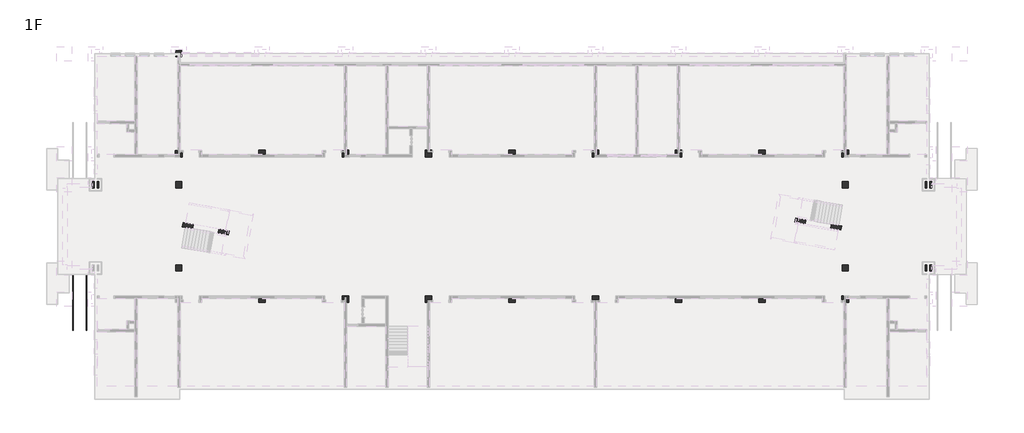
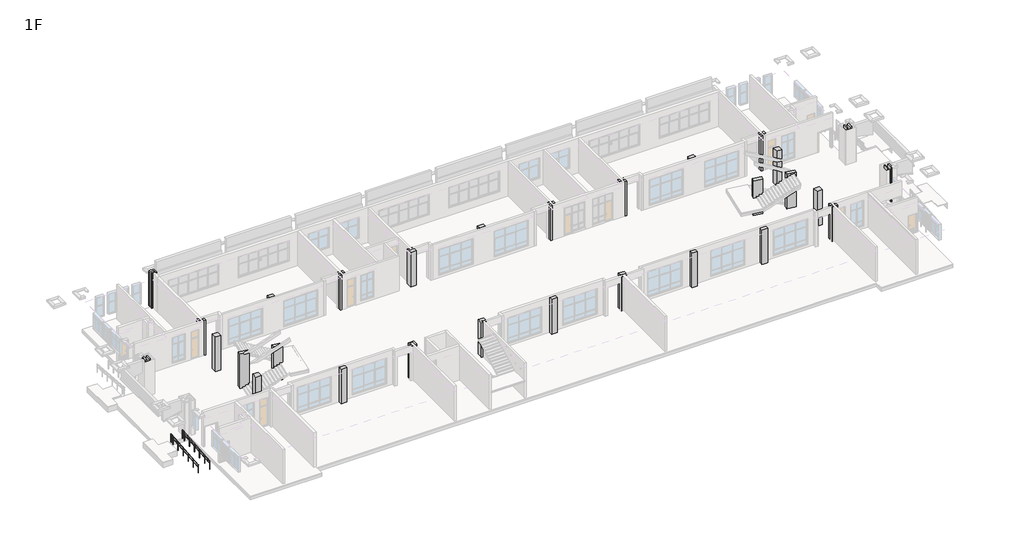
# One storey, part 8 of 16: 29 columns, 2 railings.
"""IFC4 building model written with IfcOpenShell, lengths in millimetres."""

from ifc_helpers import new_model, si_unit, frame, origin, origin_with_axes, place, context, project, spatial, polyline, ellipse_curve, outline, extrude, faceted_brep, transform, mapped, element, save
from ifc_brep_helpers import plane_surface, cylinder_surface, advanced_brep
from components import column_400_x_1000mm_b216b8c1, column_600_x_600mm_39ac082c, column_600_x_600mm_c863cf98

model = new_model("IFC4")

# Units and contexts
model_context = context("Model", 3, world=origin())
ifc_project = project(units=[si_unit("LENGTHUNIT", "METRE", prefix="MILLI")], contexts=[model_context])

# Site, building, storey
site = spatial("IfcSite", under=ifc_project)
building = spatial("IfcBuilding", under=site)
storey = spatial("IfcBuildingStorey", under=building, Name="1F", Elevation=0.0)

# Columns
placement = place(None, origin())
column_400_x_1000mm_shape = column_400_x_1000mm_b216b8c1(model_context)
element("IfcColumn", 1, ObjectType="矩形柱 : 400 x 1000mm", at=placement, inside=storey, context=model_context, shape_type="MappedRepresentation", body=[
    mapped(column_400_x_1000mm_shape, transform((11868.9667373, 16678.0533194, 0.0), x_axis=(0.9848077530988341, -0.1736481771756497, 0.0), y_axis=(0.1736481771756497, 0.9848077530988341, 0.0), z_axis=(0.0, 0.0, 1.0))),
])
element("IfcColumn", 2, ObjectType="矩形柱 : 400 x 1000mm", at=placement, inside=storey, context=model_context, shape_type="MappedRepresentation", body=[
    mapped(column_400_x_1000mm_shape, transform((15303.6601701, 16071.4403614, 0.0), x_axis=(0.9848077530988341, -0.1736481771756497, 0.0), y_axis=(0.1736481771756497, 0.9848077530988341, 0.0), z_axis=(0.0, 0.0, 1.0))),
])
element("IfcColumn", 3, ObjectType="矩形柱 : 400 x 1000mm", at=placement, inside=storey, context=model_context, shape_type="MappedRepresentation", body=[
    mapped(column_400_x_1000mm_shape, transform((70696.3343657, 17127.6942221, 0.0), x_axis=(0.9848077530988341, -0.1736481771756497, 0.0), y_axis=(0.1736481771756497, 0.9848077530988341, 0.0), z_axis=(0.0, 0.0, 1.0))),
])
element("IfcColumn", 4, ObjectType="矩形柱 : 400 x 1000mm", at=placement, inside=storey, context=model_context, shape_type="MappedRepresentation", body=[
    mapped(column_400_x_1000mm_shape, transform((74131.0357292, 16521.1261705, 0.0), x_axis=(0.9848077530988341, -0.1736481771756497, 0.0), y_axis=(0.1736481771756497, 0.9848077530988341, 0.0), z_axis=(0.0, 0.0, 1.0))),
])
element("IfcColumn", 5, ObjectType="矩形柱 : 600 x 600mm", at=placement, inside=storey, context=model_context, shape_type="Brep", body=[
    faceted_brep([(11300.0, 33500.0, 4200.0), (10700.0, 33500.0, 4200.0), (10700.0, 33252.6954639, 4200.0), (11153.0, 33252.6954639, 4200.0), (11153.0, 32982.6954639, 4200.0), (11153.0, 32900.0, 4200.0), (11300.0, 32900.0, 4200.0), (11300.0, 32929.640208, 4200.0), (11300.0, 33500.0, 0.0), (10700.0, 33500.0, 0.0), (10700.0, 33252.6954639, 0.0), (11300.0, 32900.0, 0.0), (11153.0, 33252.6954639, 0.0), (11153.0, 32982.6954639, 0.0), (11153.0, 32900.0, 0.0)], [[[0, 1, 2, 3, 4, 5, 6, 7]], [[1, 0, 8, 9]], [[1, 9, 10, 2]], [[0, 7, 6, 11, 8]], [[3, 2, 10, 12]], [[4, 3, 12, 13]], [[5, 4, 13, 14]], [[8, 11, 14, 13, 12, 10, 9]], [[11, 6, 5, 14]]]),
    faceted_brep([(10700.0, 32900.0, 0.0), (10700.0, 32982.6954639, 0.0), (10883.0, 32982.6954639, 0.0), (10883.0, 32900.0, 0.0), (10700.0, 32900.0, 4200.0), (10883.0, 32900.0, 4200.0), (10700.0, 32982.6954639, 4200.0), (10883.0, 32982.6954639, 4200.0)], [[[0, 1, 2, 3]], [[4, 0, 3, 5]], [[1, 6, 7, 2]], [[0, 4, 6, 1]], [[7, 5, 3, 2]], [[6, 4, 5, 7]]]),
])
element("IfcColumn", 6, ObjectType="矩形柱 : 600 x 600mm", at=placement, inside=storey, context=model_context, shape_type="SweptSolid", body=[
    extrude(outline(polyline([(83300.0, 20900.0), (83300.0, 20300.0), (83102.9999995, 20300.0), (83102.9999995, 20900.0), (83300.0, 20900.0)])), origin_with_axes(), (0.0, 0.0, 1.0), 4200.0),
    extrude(outline(polyline([(82700.0, 20300.0), (82700.0, 20900.0), (82832.9999995, 20900.0), (82832.9999995, 20300.0), (82700.0, 20300.0)])), origin_with_axes(), (0.0, 0.0, 1.0), 4200.0),
])
element("IfcColumn", 7, ObjectType="矩形柱 : 600 x 600mm", at=placement, inside=storey, context=model_context, shape_type="SweptSolid", body=[
    extrude(outline(polyline([(83300.0, 12900.0), (83300.0, 12300.0), (83102.9999995, 12300.0), (83102.9999995, 12900.0), (83300.0, 12900.0)])), origin_with_axes(), (0.0, 0.0, 1.0), 4200.0),
    extrude(outline(polyline([(82700.0, 12300.0), (82700.0, 12900.0), (82832.9999995, 12900.0), (82832.9999995, 12300.0), (82700.0, 12300.0)])), origin_with_axes(), (0.0, 0.0, 1.0), 4200.0),
])
element("IfcColumn", 8, ObjectType="矩形柱 : 600 x 600mm", at=placement, inside=storey, context=model_context, shape_type="SweptSolid", body=[
    extrude(outline(polyline([(3300.0, 20900.0), (3300.0, 20300.0), (3167.0000002, 20300.0), (3167.0000002, 20900.0), (3300.0, 20900.0)])), origin_with_axes(), (0.0, 0.0, 1.0), 4200.0),
    extrude(outline(polyline([(2700.0, 20300.0), (2700.0, 20900.0), (2897.0000002, 20900.0), (2897.0000002, 20300.0), (2700.0, 20300.0)])), origin_with_axes(), (0.0, 0.0, 1.0), 4200.0),
])
column_600_x_600mm_shape = column_600_x_600mm_39ac082c(model_context)
element("IfcColumn", 9, ObjectType="矩形柱 : 600 x 600mm", at=placement, inside=storey, context=model_context, shape_type="MappedRepresentation", body=[
    mapped(column_600_x_600mm_shape, transform((11000.0, 20600.0, 0.0), x_axis=(1.0, 0.0, 0.0), y_axis=(0.0, 1.0, 0.0), z_axis=(0.0, 0.0, 1.0))),
])
element("IfcColumn", 10, ObjectType="矩形柱 : 600 x 600mm", at=placement, inside=storey, context=model_context, shape_type="MappedRepresentation", body=[
    mapped(column_600_x_600mm_shape, transform((75000.0, 20600.0, 0.0), x_axis=(1.0, 0.0, 0.0), y_axis=(0.0, 1.0, 0.0), z_axis=(0.0, 0.0, 1.0))),
])
column_600_x_600mm_2_shape = column_600_x_600mm_c863cf98(model_context)
element("IfcColumn", 11, ObjectType="矩形柱 : 600 x 600mm", at=placement, inside=storey, context=model_context, shape_type="MappedRepresentation", body=[
    mapped(column_600_x_600mm_2_shape, transform((11000.0, 12600.0, 0.0), x_axis=(1.0, 0.0, 0.0), y_axis=(0.0, 1.0, 0.0), z_axis=(0.0, 0.0, 1.0))),
])
element("IfcColumn", 12, ObjectType="矩形柱 : 600 x 600mm", at=placement, inside=storey, context=model_context, shape_type="MappedRepresentation", body=[
    mapped(column_600_x_600mm_2_shape, transform((75000.0, 12600.0, 0.0), x_axis=(1.0, 0.0, 0.0), y_axis=(0.0, 1.0, 0.0), z_axis=(0.0, 0.0, 1.0))),
])
element("IfcColumn", 13, ObjectType="矩形柱 : 634 x 634mm", at=placement, inside=storey, context=model_context, shape_type="SweptSolid", body=[
    extrude(outline(polyline([(75117.0, 23917.0), (75317.0, 23917.0), (75317.0, 23516.2230996), (75117.0, 23516.2230996), (75117.0, 23917.0)])), origin_with_axes(), (0.0, 0.0, 1.0), 4200.0),
    extrude(outline(polyline([(74683.0, 23917.0), (74883.0, 23917.0), (74883.0, 23916.7231011), (74683.0, 23916.7231011), (74683.0, 23917.0)])), origin_with_axes(), (0.0, 0.0, 1.0), 4200.0),
    extrude(outline(polyline([(74883.0, 23283.0), (74683.0, 23283.0), (74683.0, 23682.7231011), (74883.0, 23682.7231011), (74883.0, 23283.0)])), origin_with_axes(), (0.0, 0.0, 1.0), 4200.0),
])
element("IfcColumn", 14, ObjectType="矩形柱 : 634 x 634mm", at=placement, inside=storey, context=model_context, shape_type="SweptSolid", body=[
    extrude(outline(polyline([(66683.0, 23917.0), (67317.0, 23917.0), (67317.0, 23516.6954638), (66683.0, 23516.6954638), (66683.0, 23917.0)])), origin_with_axes(), (0.0, 0.0, 1.0), 4200.0),
])
element("IfcColumn", 15, ObjectType="矩形柱 : 634 x 634mm", at=placement, inside=storey, context=model_context, shape_type="SweptSolid", body=[
    extrude(outline(polyline([(59117.0, 23917.0), (59317.0, 23917.0), (59317.0, 23916.7231012), (59117.0, 23916.7231012), (59117.0, 23917.0)])), origin_with_axes(), (0.0, 0.0, 1.0), 4200.0),
    extrude(outline(polyline([(58683.0, 23917.0), (58883.0, 23917.0), (58883.0, 23516.6954639), (58683.0, 23516.6954639), (58683.0, 23917.0)])), origin_with_axes(), (0.0, 0.0, 1.0), 4200.0),
    extrude(outline(polyline([(59317.0, 23682.7231012), (59317.0, 23283.0), (59117.0, 23283.0), (59117.0, 23516.6954639), (59117.0, 23682.7231012), (59317.0, 23682.7231012)])), origin_with_axes(), (0.0, 0.0, 1.0), 4200.0),
])
element("IfcColumn", 16, ObjectType="矩形柱 : 634 x 634mm", at=placement, inside=storey, context=model_context, shape_type="SweptSolid", body=[
    extrude(outline(polyline([(51117.0, 23917.0), (51317.0, 23917.0), (51317.0, 23516.6954639), (51117.0, 23516.6954639), (51117.0, 23917.0)])), origin_with_axes(), (0.0, 0.0, 1.0), 4200.0),
    extrude(outline(polyline([(50683.0, 23917.0), (50883.0, 23917.0), (50883.0, 23916.7231007), (50683.0, 23916.7231007), (50683.0, 23917.0)])), origin_with_axes(), (0.0, 0.0, 1.0), 4200.0),
    extrude(outline(polyline([(50883.0, 23283.0), (50683.0, 23283.0), (50683.0, 23682.7231007), (50883.0, 23682.7231007), (50883.0, 23516.6954639), (50883.0, 23283.0)])), origin_with_axes(), (0.0, 0.0, 1.0), 4200.0),
])
element("IfcColumn", 17, ObjectType="矩形柱 : 634 x 634mm", at=placement, inside=storey, context=model_context, shape_type="SweptSolid", body=[
    extrude(outline(polyline([(42683.0, 23917.0), (43317.0, 23917.0), (43317.0, 23516.695464), (42683.0, 23516.695464), (42683.0, 23917.0)])), origin_with_axes(), (0.0, 0.0, 1.0), 4200.0),
])
element("IfcColumn", 18, ObjectType="矩形柱 : 634 x 634mm", at=placement, inside=storey, context=model_context, shape_type="SweptSolid", body=[
    extrude(outline(polyline([(35117.0, 23917.0), (35317.0, 23917.0), (35317.0, 23916.7231012), (35117.0, 23916.7231012), (35117.0, 23917.0)])), origin_with_axes(), (0.0, 0.0, 1.0), 4200.0),
    extrude(outline(polyline([(35317.0, 23283.0), (34683.0, 23283.0), (34683.0, 23917.0), (34883.0, 23917.0), (34883.0, 23682.7231012), (35117.0, 23682.7231012), (35317.0, 23682.7231012), (35317.0, 23283.0)])), origin_with_axes(), (0.0, 0.0, 1.0), 4200.0),
])
element("IfcColumn", 19, ObjectType="矩形柱 : 634 x 634mm", at=placement, inside=storey, context=model_context, shape_type="SweptSolid", body=[
    extrude(outline(polyline([(27117.0, 23917.0), (27317.0, 23917.0), (27317.0, 23516.6954638), (27117.0, 23516.6954638), (27117.0, 23917.0)])), origin_with_axes(), (0.0, 0.0, 1.0), 4200.0),
    extrude(outline(polyline([(26683.0, 23917.0), (26883.0, 23917.0), (26883.0, 23916.7231007), (26683.0, 23916.7231007), (26683.0, 23917.0)])), origin_with_axes(), (0.0, 0.0, 1.0), 4200.0),
    extrude(outline(polyline([(26883.0, 23283.0), (26683.0, 23283.0), (26683.0, 23682.7231007), (26883.0, 23682.7231007), (26883.0, 23516.6954638), (26883.0, 23283.0)])), origin_with_axes(), (0.0, 0.0, 1.0), 4200.0),
])
element("IfcColumn", 20, ObjectType="矩形柱 : 634 x 634mm", at=placement, inside=storey, context=model_context, shape_type="SweptSolid", body=[
    extrude(outline(polyline([(18683.0, 23917.0), (19317.0, 23917.0), (19317.0, 23516.6954641), (18683.0, 23516.6954641), (18683.0, 23917.0)])), origin_with_axes(), (0.0, 0.0, 1.0), 4200.0),
])
element("IfcColumn", 21, ObjectType="矩形柱 : 634 x 634mm", at=placement, inside=storey, context=model_context, shape_type="SweptSolid", body=[
    extrude(outline(polyline([(11317.0, 23682.7231012), (11317.0, 23282.723093), (11117.0, 23282.723093), (11117.0, 23516.723093), (11117.0, 23682.7231012), (11317.0, 23682.7231012)])), origin_with_axes(), (0.0, 0.0, 1.0), 4200.0),
    extrude(outline(polyline([(10683.0, 23916.723093), (10883.0, 23916.723093), (10883.0, 23516.723093), (10683.0, 23516.723093), (10683.0, 23916.723093)])), origin_with_axes(), (0.0, 0.0, 1.0), 4200.0),
])
element("IfcColumn", 22, ObjectType="矩形柱 : 634 x 634mm", at=placement, inside=storey, context=model_context, shape_type="SweptSolid", body=[
    extrude(outline(polyline([(75317.0, 9283.0), (75117.0, 9283.0), (75117.0, 9683.7769004), (75317.0, 9683.7769004), (75317.0, 9283.0)])), origin_with_axes(), (0.0, 0.0, 1.0), 4200.0),
    extrude(outline(polyline([(74683.0, 9917.0), (74883.0, 9917.0), (74883.0, 9517.2768989), (74683.0, 9517.2768989), (74683.0, 9917.0)])), origin_with_axes(), (0.0, 0.0, 1.0), 4200.0),
    extrude(outline(polyline([(74883.0, 9283.0), (74683.0, 9283.0), (74683.0, 9283.2768989), (74883.0, 9283.2768989), (74883.0, 9283.0)])), origin_with_axes(), (0.0, 0.0, 1.0), 4200.0),
])
element("IfcColumn", 23, ObjectType="矩形柱 : 634 x 634mm", at=placement, inside=storey, context=model_context, shape_type="SweptSolid", body=[
    extrude(outline(polyline([(67317.0, 9283.0), (66683.0, 9283.0), (66683.0, 9683.3045361), (67317.0, 9683.3045361), (67317.0, 9283.0)])), origin_with_axes(), (0.0, 0.0, 1.0), 4200.0),
])
element("IfcColumn", 24, ObjectType="矩形柱 : 634 x 634mm", at=placement, inside=storey, context=model_context, shape_type="SweptSolid", body=[
    extrude(outline(polyline([(59317.0, 9283.0), (58683.0, 9283.0), (58683.0, 9683.3045361), (59317.0, 9683.3045361), (59317.0, 9283.0)])), origin_with_axes(), (0.0, 0.0, 1.0), 4200.0),
])
element("IfcColumn", 25, ObjectType="矩形柱 : 634 x 634mm", at=placement, inside=storey, context=model_context, shape_type="SweptSolid", body=[
    extrude(outline(polyline([(50683.0, 9917.0), (51317.0, 9917.0), (51317.0, 9517.2768993), (51117.0, 9517.2768993), (50883.0, 9517.2768993), (50683.0, 9517.2768993), (50683.0, 9917.0)])), origin_with_axes(), (0.0, 0.0, 1.0), 4200.0),
    extrude(outline(polyline([(50883.0, 9283.0), (50683.0, 9283.0), (50683.0, 9283.2768993), (50883.0, 9283.2768993), (50883.0, 9283.0)])), origin_with_axes(), (0.0, 0.0, 1.0), 4200.0),
    extrude(outline(polyline([(51317.0, 9283.0), (51117.0, 9283.0), (51117.0, 9283.2768993), (51317.0, 9283.2768993), (51317.0, 9283.0)])), origin_with_axes(), (0.0, 0.0, 1.0), 4200.0),
])
element("IfcColumn", 26, ObjectType="矩形柱 : 634 x 634mm", at=placement, inside=storey, context=model_context, shape_type="SweptSolid", body=[
    extrude(outline(polyline([(43317.0, 9283.0), (42683.0, 9283.0), (42683.0, 9683.304536), (43317.0, 9683.304536), (43317.0, 9283.0)])), origin_with_axes(), (0.0, 0.0, 1.0), 4200.0),
])
element("IfcColumn", 27, ObjectType="矩形柱 : 634 x 634mm", at=placement, inside=storey, context=model_context, shape_type="SweptSolid", body=[
    extrude(outline(polyline([(35317.0, 9283.0), (35117.0, 9283.0), (35117.0, 9283.2768988), (35317.0, 9283.2768988), (35317.0, 9283.0)])), origin_with_axes(), (0.0, 0.0, 1.0), 4200.0),
    extrude(outline(polyline([(34683.0, 9917.0), (35317.0, 9917.0), (35317.0, 9517.2768988), (35117.0, 9517.2768988), (34883.0, 9517.2768988), (34883.0, 9283.0), (34683.0, 9283.0), (34683.0, 9917.0)])), origin_with_axes(), (0.0, 0.0, 1.0), 4200.0),
])
element("IfcColumn", 28, ObjectType="矩形柱 : 634 x 634mm", at=placement, inside=storey, context=model_context, shape_type="SweptSolid", body=[
    extrude(outline(polyline([(27317.0, 9917.0), (27317.0, 9283.0), (27117.0, 9283.0), (27117.0, 9800.3045362), (26883.0, 9800.3045362), (26883.0, 9517.2768993), (26683.0, 9517.2768993), (26683.0, 9917.0), (27317.0, 9917.0)])), origin_with_axes(), (0.0, 0.0, 1.0), 4200.0),
    extrude(outline(polyline([(26883.0, 9283.0), (26683.0, 9283.0), (26683.0, 9283.2768993), (26883.0, 9283.2768993), (26883.0, 9283.0)])), origin_with_axes(), (0.0, 0.0, 1.0), 4200.0),
])
element("IfcColumn", 29, ObjectType="矩形柱 : 634 x 634mm", at=placement, inside=storey, context=model_context, shape_type="SweptSolid", body=[
    extrude(outline(polyline([(19317.0, 9283.0), (18683.0, 9283.0), (18683.0, 9683.3045359), (19317.0, 9683.3045359), (19317.0, 9283.0)])), origin_with_axes(), (0.0, 0.0, 1.0), 4200.0),
])

# Railings
element("IfcRailing", 30, ObjectType="教学楼 – 无障碍坡道扶手 – 1000mm", at=placement, inside=storey, context=model_context, shape_type="AdvancedBrep", body=[
    advanced_brep(
    [(870.0, 6600.0, 529.9306757), (830.0, 6600.0, 529.9306757), (870.0, 12000.0, 979.9306757), (830.0, 12000.0, 979.9306757)],
    [
        (0, 1, ellipse_curve(frame((850.0, 6600.0, 529.9306757), z_axis=(0.0, -1.0, 0.0), x_axis=(0.0, 0.0, -1.0)), 20.0693243, 20.0)),
        (1, 0, ellipse_curve(frame((850.0, 6600.0, 529.9306757), z_axis=(0.0, -1.0, 0.0), x_axis=(0.0, 0.0, -1.0)), 20.0693243, 20.0)),
        (2, 3, ellipse_curve(frame((850.0, 12000.0, 979.9306757), z_axis=(0.0, 1.0, 0.0), x_axis=(0.0, 0.0, -1.0)), 20.0693243, 20.0)),
        (3, 2, ellipse_curve(frame((850.0, 12000.0, 979.9306757), z_axis=(0.0, 1.0, 0.0), x_axis=(0.0, 0.0, -1.0)), 20.0693243, 20.0)),
        (0, 2),
        (3, 1),
    ],
    [
        plane_surface(frame((850.0, 6600.0, 550.0), z_axis=(0.0, -1.0, 0.0), x_axis=(0.0, 0.0, 1.0))),
        plane_surface(frame((850.0, 12000.0, 1000.0), z_axis=(0.0, 1.0, 0.0), x_axis=(0.0, 0.0, 1.0))),
        cylinder_surface(frame((850.0, 6601.6609096, 530.0690848), z_axis=(0.0, -0.9965457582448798, -0.08304547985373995), x_axis=(-1.0, 0.0, 0.0)), 20.0),
    ],
    [
        (0, [[1, 2]]),
        (1, [[3, 4]]),
        (2, [[-1, 5, -4, 6]]),
        (2, [[-2, -6, -3, -5]]),
    ],
),
    advanced_brep(
    [(865.0, 6600.0, 234.9480068), (835.0, 6600.0, 234.9480068), (865.0, 12000.0, 684.9480068), (835.0, 12000.0, 684.9480068)],
    [
        (0, 1, ellipse_curve(frame((850.0, 6600.0, 234.9480068), z_axis=(0.0, -1.0, 0.0), x_axis=(0.0, 0.0, -1.0)), 15.0519932, 15.0)),
        (1, 0, ellipse_curve(frame((850.0, 6600.0, 234.9480068), z_axis=(0.0, -1.0, 0.0), x_axis=(0.0, 0.0, -1.0)), 15.0519932, 15.0)),
        (2, 3, ellipse_curve(frame((850.0, 12000.0, 684.9480068), z_axis=(0.0, 1.0, 0.0), x_axis=(0.0, 0.0, -1.0)), 15.0519932, 15.0)),
        (3, 2, ellipse_curve(frame((850.0, 12000.0, 684.9480068), z_axis=(0.0, 1.0, 0.0), x_axis=(0.0, 0.0, -1.0)), 15.0519932, 15.0)),
        (1, 3),
        (2, 0),
    ],
    [
        plane_surface(frame((850.0, 6600.0, 250.0), z_axis=(0.0, -1.0, 0.0), x_axis=(0.0, 0.0, 1.0))),
        plane_surface(frame((850.0, 12000.0, 700.0), z_axis=(0.0, 1.0, 0.0), x_axis=(0.0, 0.0, 1.0))),
        cylinder_surface(frame((850.0, 6601.2456822, 235.0518136), z_axis=(0.0, -0.9965457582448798, -0.08304547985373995), x_axis=(-1.0, 0.0, 0.0)), 15.0),
    ],
    [
        (0, [[1, 2]]),
        (1, [[3, 4]]),
        (2, [[-2, 5, -3, 6]]),
        (2, [[-1, -6, -4, -5]]),
    ],
),
    advanced_brep(
    [(837.5, 11600.0, 926.5280181), (862.5, 11600.0, 926.5280181), (862.5, 11600.0, -33.3333333), (837.5, 11600.0, -33.3333333)],
    [
        (0, 1, ellipse_curve(frame((850.0, 11600.0, 926.5280181), z_axis=(0.0, 0.08304547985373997, -0.9965457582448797), x_axis=(0.0, 0.9965457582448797, 0.0830454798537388)), 12.5433277, 12.5)),
        (1, 2),
        (2, 3, ellipse_curve(frame((850.0, 11600.0, -33.3333333), z_axis=(0.0, -0.08304547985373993, 0.9965457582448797), x_axis=(0.0, 0.9965457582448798, 0.08304547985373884)), 12.5433277, 12.5)),
        (3, 0),
        (3, 2, ellipse_curve(frame((850.0, 11600.0, -33.3333333), z_axis=(0.0, -0.08304547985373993, 0.9965457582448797), x_axis=(0.0, 0.9965457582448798, 0.08304547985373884)), 12.5433277, 12.5)),
        (1, 0, ellipse_curve(frame((850.0, 11600.0, 926.5280181), z_axis=(0.0, 0.08304547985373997, -0.9965457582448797), x_axis=(0.0, 0.9965457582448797, 0.0830454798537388)), 12.5433277, 12.5)),
    ],
    [
        cylinder_surface(frame((850.0, 11600.0, -133.3333333), z_axis=(0.0, 0.0, 1.0), x_axis=(1.0, 0.0, 0.0)), 12.5),
        plane_surface(frame((875.0, 11625.0, 928.6113514), z_axis=(0.0, -0.08304547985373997, 0.9965457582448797), x_axis=(-1.0, 0.0, 0.0))),
        plane_surface(frame((875.0, 11575.0, -35.4166667), z_axis=(0.0, 0.08304547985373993, -0.9965457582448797), x_axis=(-1.0, 0.0, 0.0))),
    ],
    [
        (0, [[1, 2, 3, 4]]),
        (0, [[5, -2, 6, -4]]),
        (1, [[-6, -1]]),
        (2, [[-5, -3]]),
    ],
),
    advanced_brep(
    [(837.5, 10600.0, 843.1946847), (862.5, 10600.0, 843.1946847), (862.5, 10600.0, -116.6666667), (837.5, 10600.0, -116.6666667)],
    [
        (0, 1, ellipse_curve(frame((850.0, 10600.0, 843.1946847), z_axis=(0.0, 0.08304547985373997, -0.9965457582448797), x_axis=(0.0, 0.9965457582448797, 0.0830454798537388)), 12.5433277, 12.5)),
        (1, 2),
        (2, 3, ellipse_curve(frame((850.0, 10600.0, -116.6666667), z_axis=(0.0, -0.08304547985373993, 0.9965457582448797), x_axis=(0.0, 0.9965457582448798, 0.08304547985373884)), 12.5433277, 12.5)),
        (3, 0),
        (3, 2, ellipse_curve(frame((850.0, 10600.0, -116.6666667), z_axis=(0.0, -0.08304547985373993, 0.9965457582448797), x_axis=(0.0, 0.9965457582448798, 0.08304547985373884)), 12.5433277, 12.5)),
        (1, 0, ellipse_curve(frame((850.0, 10600.0, 843.1946847), z_axis=(0.0, 0.08304547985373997, -0.9965457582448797), x_axis=(0.0, 0.9965457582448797, 0.0830454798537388)), 12.5433277, 12.5)),
    ],
    [
        cylinder_surface(frame((850.0, 10600.0, -216.6666667), z_axis=(0.0, 0.0, 1.0), x_axis=(1.0, 0.0, 0.0)), 12.5),
        plane_surface(frame((875.0, 10625.0, 845.2780181), z_axis=(0.0, -0.08304547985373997, 0.9965457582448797), x_axis=(-1.0, 0.0, 0.0))),
        plane_surface(frame((875.0, 10575.0, -118.75), z_axis=(0.0, 0.08304547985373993, -0.9965457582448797), x_axis=(-1.0, 0.0, 0.0))),
    ],
    [
        (0, [[1, 2, 3, 4]]),
        (0, [[5, -2, 6, -4]]),
        (1, [[-6, -1]]),
        (2, [[-5, -3]]),
    ],
),
    advanced_brep(
    [(837.5, 9600.0, 759.8613514), (862.5, 9600.0, 759.8613514), (862.5, 9600.0, -200.0), (837.5, 9600.0, -200.0)],
    [
        (0, 1, ellipse_curve(frame((850.0, 9600.0, 759.8613514), z_axis=(0.0, 0.08304547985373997, -0.9965457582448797), x_axis=(0.0, 0.9965457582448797, 0.0830454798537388)), 12.5433277, 12.5)),
        (1, 2),
        (2, 3, ellipse_curve(frame((850.0, 9600.0, -200.0), z_axis=(0.0, -0.08304547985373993, 0.9965457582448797), x_axis=(0.0, 0.9965457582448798, 0.08304547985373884)), 12.5433277, 12.5)),
        (3, 0),
        (3, 2, ellipse_curve(frame((850.0, 9600.0, -200.0), z_axis=(0.0, -0.08304547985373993, 0.9965457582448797), x_axis=(0.0, 0.9965457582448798, 0.08304547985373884)), 12.5433277, 12.5)),
        (1, 0, ellipse_curve(frame((850.0, 9600.0, 759.8613514), z_axis=(0.0, 0.08304547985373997, -0.9965457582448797), x_axis=(0.0, 0.9965457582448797, 0.0830454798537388)), 12.5433277, 12.5)),
    ],
    [
        cylinder_surface(frame((850.0, 9600.0, -300.0), z_axis=(0.0, 0.0, 1.0), x_axis=(1.0, 0.0, 0.0)), 12.5),
        plane_surface(frame((875.0, 9625.0, 761.9446847), z_axis=(0.0, -0.08304547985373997, 0.9965457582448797), x_axis=(-1.0, 0.0, 0.0))),
        plane_surface(frame((875.0, 9575.0, -202.0833333), z_axis=(0.0, 0.08304547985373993, -0.9965457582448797), x_axis=(-1.0, 0.0, 0.0))),
    ],
    [
        (0, [[1, 2, 3, 4]]),
        (0, [[5, -2, 6, -4]]),
        (1, [[-6, -1]]),
        (2, [[-5, -3]]),
    ],
),
    advanced_brep(
    [(837.5, 8600.0, 676.5280181), (862.5, 8600.0, 676.5280181), (862.5, 8600.0, -283.3333333), (837.5, 8600.0, -283.3333333)],
    [
        (0, 1, ellipse_curve(frame((850.0, 8600.0, 676.5280181), z_axis=(0.0, 0.08304547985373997, -0.9965457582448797), x_axis=(0.0, 0.9965457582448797, 0.0830454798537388)), 12.5433277, 12.5)),
        (1, 2),
        (2, 3, ellipse_curve(frame((850.0, 8600.0, -283.3333333), z_axis=(0.0, -0.08304547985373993, 0.9965457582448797), x_axis=(0.0, 0.9965457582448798, 0.08304547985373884)), 12.5433277, 12.5)),
        (3, 0),
        (3, 2, ellipse_curve(frame((850.0, 8600.0, -283.3333333), z_axis=(0.0, -0.08304547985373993, 0.9965457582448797), x_axis=(0.0, 0.9965457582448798, 0.08304547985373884)), 12.5433277, 12.5)),
        (1, 0, ellipse_curve(frame((850.0, 8600.0, 676.5280181), z_axis=(0.0, 0.08304547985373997, -0.9965457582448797), x_axis=(0.0, 0.9965457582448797, 0.0830454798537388)), 12.5433277, 12.5)),
    ],
    [
        cylinder_surface(frame((850.0, 8600.0, -383.3333333), z_axis=(0.0, 0.0, 1.0), x_axis=(1.0, 0.0, 0.0)), 12.5),
        plane_surface(frame((875.0, 8625.0, 678.6113514), z_axis=(0.0, -0.08304547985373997, 0.9965457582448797), x_axis=(-1.0, 0.0, 0.0))),
        plane_surface(frame((875.0, 8575.0, -285.4166667), z_axis=(0.0, 0.08304547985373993, -0.9965457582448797), x_axis=(-1.0, 0.0, 0.0))),
    ],
    [
        (0, [[1, 2, 3, 4]]),
        (0, [[5, -2, 6, -4]]),
        (1, [[-6, -1]]),
        (2, [[-5, -3]]),
    ],
),
    advanced_brep(
    [(837.5, 7600.0, 593.1946847), (862.5, 7600.0, 593.1946847), (862.5, 7600.0, -366.6666667), (837.5, 7600.0, -366.6666667)],
    [
        (0, 1, ellipse_curve(frame((850.0, 7600.0, 593.1946847), z_axis=(0.0, 0.08304547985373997, -0.9965457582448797), x_axis=(0.0, 0.9965457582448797, 0.0830454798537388)), 12.5433277, 12.5)),
        (1, 2),
        (2, 3, ellipse_curve(frame((850.0, 7600.0, -366.6666667), z_axis=(0.0, -0.08304547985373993, 0.9965457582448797), x_axis=(0.0, 0.9965457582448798, 0.08304547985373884)), 12.5433277, 12.5)),
        (3, 0),
        (3, 2, ellipse_curve(frame((850.0, 7600.0, -366.6666667), z_axis=(0.0, -0.08304547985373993, 0.9965457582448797), x_axis=(0.0, 0.9965457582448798, 0.08304547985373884)), 12.5433277, 12.5)),
        (1, 0, ellipse_curve(frame((850.0, 7600.0, 593.1946847), z_axis=(0.0, 0.08304547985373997, -0.9965457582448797), x_axis=(0.0, 0.9965457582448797, 0.0830454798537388)), 12.5433277, 12.5)),
    ],
    [
        cylinder_surface(frame((850.0, 7600.0, -466.6666667), z_axis=(0.0, 0.0, 1.0), x_axis=(1.0, 0.0, 0.0)), 12.5),
        plane_surface(frame((875.0, 7625.0, 595.2780181), z_axis=(0.0, -0.08304547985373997, 0.9965457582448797), x_axis=(-1.0, 0.0, 0.0))),
        plane_surface(frame((875.0, 7575.0, -368.75), z_axis=(0.0, 0.08304547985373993, -0.9965457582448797), x_axis=(-1.0, 0.0, 0.0))),
    ],
    [
        (0, [[1, 2, 3, 4]]),
        (0, [[5, -2, 6, -4]]),
        (1, [[-6, -1]]),
        (2, [[-5, -3]]),
    ],
),
    advanced_brep(
    [(837.5, 11987.5, 958.8196847), (862.5, 11987.5, 958.8196847), (862.5, 11987.5, -1.0416667), (837.5, 11987.5, -1.0416667)],
    [
        (0, 1, ellipse_curve(frame((850.0, 11987.5, 958.8196847), z_axis=(0.0, 0.08304547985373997, -0.9965457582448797), x_axis=(0.0, 0.9965457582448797, 0.0830454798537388)), 12.5433277, 12.5)),
        (1, 2),
        (2, 3, ellipse_curve(frame((850.0, 11987.5, -1.0416667), z_axis=(0.0, -0.08304547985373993, 0.9965457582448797), x_axis=(0.0, 0.9965457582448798, 0.08304547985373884)), 12.5433277, 12.5)),
        (3, 0),
        (3, 2, ellipse_curve(frame((850.0, 11987.5, -1.0416667), z_axis=(0.0, -0.08304547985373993, 0.9965457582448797), x_axis=(0.0, 0.9965457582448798, 0.08304547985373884)), 12.5433277, 12.5)),
        (1, 0, ellipse_curve(frame((850.0, 11987.5, 958.8196847), z_axis=(0.0, 0.08304547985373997, -0.9965457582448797), x_axis=(0.0, 0.9965457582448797, 0.0830454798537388)), 12.5433277, 12.5)),
    ],
    [
        cylinder_surface(frame((850.0, 11987.5, -101.0416667), z_axis=(0.0, 0.0, 1.0), x_axis=(1.0, 0.0, 0.0)), 12.5),
        plane_surface(frame((875.0, 12012.5, 960.9030181), z_axis=(0.0, -0.08304547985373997, 0.9965457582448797), x_axis=(-1.0, 0.0, 0.0))),
        plane_surface(frame((875.0, 11962.5, -3.125), z_axis=(0.0, 0.08304547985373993, -0.9965457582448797), x_axis=(-1.0, 0.0, 0.0))),
    ],
    [
        (0, [[1, 2, 3, 4]]),
        (0, [[5, -2, 6, -4]]),
        (1, [[-6, -1]]),
        (2, [[-5, -3]]),
    ],
),
    advanced_brep(
    [(837.5, 6612.5, 510.9030181), (862.5, 6612.5, 510.9030181), (862.5, 6612.5, -448.9583333), (837.5, 6612.5, -448.9583333)],
    [
        (0, 1, ellipse_curve(frame((850.0, 6612.5, 510.9030181), z_axis=(0.0, 0.08304547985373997, -0.9965457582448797), x_axis=(0.0, 0.9965457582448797, 0.0830454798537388)), 12.5433277, 12.5)),
        (1, 2),
        (2, 3, ellipse_curve(frame((850.0, 6612.5, -448.9583333), z_axis=(0.0, -0.08304547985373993, 0.9965457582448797), x_axis=(0.0, 0.9965457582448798, 0.08304547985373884)), 12.5433277, 12.5)),
        (3, 0),
        (3, 2, ellipse_curve(frame((850.0, 6612.5, -448.9583333), z_axis=(0.0, -0.08304547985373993, 0.9965457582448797), x_axis=(0.0, 0.9965457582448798, 0.08304547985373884)), 12.5433277, 12.5)),
        (1, 0, ellipse_curve(frame((850.0, 6612.5, 510.9030181), z_axis=(0.0, 0.08304547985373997, -0.9965457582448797), x_axis=(0.0, 0.9965457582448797, 0.0830454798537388)), 12.5433277, 12.5)),
    ],
    [
        cylinder_surface(frame((850.0, 6612.5, -548.9583333), z_axis=(0.0, 0.0, 1.0), x_axis=(1.0, 0.0, 0.0)), 12.5),
        plane_surface(frame((875.0, 6637.5, 512.9863514), z_axis=(0.0, -0.08304547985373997, 0.9965457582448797), x_axis=(-1.0, 0.0, 0.0))),
        plane_surface(frame((875.0, 6587.5, -451.0416667), z_axis=(0.0, 0.08304547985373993, -0.9965457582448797), x_axis=(-1.0, 0.0, 0.0))),
    ],
    [
        (0, [[1, 2, 3, 4]]),
        (0, [[5, -2, 6, -4]]),
        (1, [[-6, -1]]),
        (2, [[-5, -3]]),
    ],
),
])
element("IfcRailing", 31, ObjectType="教学楼 – 无障碍坡道扶手 – 1000mm", at=placement, inside=storey, context=model_context, shape_type="AdvancedBrep", body=[
    advanced_brep(
    [(2170.0, 6600.0, 529.9306757), (2130.0, 6600.0, 529.9306757), (2170.0, 12000.0, 979.9306757), (2130.0, 12000.0, 979.9306757)],
    [
        (0, 1, ellipse_curve(frame((2150.0, 6600.0, 529.9306757), z_axis=(0.0, -1.0, 0.0), x_axis=(0.0, 0.0, -1.0)), 20.0693243, 20.0)),
        (1, 0, ellipse_curve(frame((2150.0, 6600.0, 529.9306757), z_axis=(0.0, -1.0, 0.0), x_axis=(0.0, 0.0, -1.0)), 20.0693243, 20.0)),
        (2, 3, ellipse_curve(frame((2150.0, 12000.0, 979.9306757), z_axis=(0.0, 1.0, 0.0), x_axis=(0.0, 0.0, -1.0)), 20.0693243, 20.0)),
        (3, 2, ellipse_curve(frame((2150.0, 12000.0, 979.9306757), z_axis=(0.0, 1.0, 0.0), x_axis=(0.0, 0.0, -1.0)), 20.0693243, 20.0)),
        (0, 2),
        (3, 1),
    ],
    [
        plane_surface(frame((2150.0, 6600.0, 550.0), z_axis=(0.0, -1.0, 0.0), x_axis=(0.0, 0.0, 1.0))),
        plane_surface(frame((2150.0, 12000.0, 1000.0), z_axis=(0.0, 1.0, 0.0), x_axis=(0.0, 0.0, 1.0))),
        cylinder_surface(frame((2150.0, 6601.6609096, 530.0690848), z_axis=(0.0, -0.9965457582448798, -0.08304547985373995), x_axis=(-1.0, 0.0, 0.0)), 20.0),
    ],
    [
        (0, [[1, 2]]),
        (1, [[3, 4]]),
        (2, [[-1, 5, -4, 6]]),
        (2, [[-2, -6, -3, -5]]),
    ],
),
    advanced_brep(
    [(2135.0, 6600.0, 234.9480068), (2165.0, 6600.0, 234.9480068), (2135.0, 12000.0, 684.9480068), (2165.0, 12000.0, 684.9480068)],
    [
        (0, 1, ellipse_curve(frame((2150.0, 6600.0, 234.9480068), z_axis=(0.0, -1.0, 0.0), x_axis=(0.0, 0.0, -1.0)), 15.0519932, 15.0)),
        (1, 0, ellipse_curve(frame((2150.0, 6600.0, 234.9480068), z_axis=(0.0, -1.0, 0.0), x_axis=(0.0, 0.0, -1.0)), 15.0519932, 15.0)),
        (2, 3, ellipse_curve(frame((2150.0, 12000.0, 684.9480068), z_axis=(0.0, 1.0, 0.0), x_axis=(0.0, 0.0, -1.0)), 15.0519932, 15.0)),
        (3, 2, ellipse_curve(frame((2150.0, 12000.0, 684.9480068), z_axis=(0.0, 1.0, 0.0), x_axis=(0.0, 0.0, -1.0)), 15.0519932, 15.0)),
        (0, 2),
        (3, 1),
    ],
    [
        plane_surface(frame((2150.0, 6600.0, 250.0), z_axis=(0.0, -1.0, 0.0), x_axis=(0.0, 0.0, 1.0))),
        plane_surface(frame((2150.0, 12000.0, 700.0), z_axis=(0.0, 1.0, 0.0), x_axis=(0.0, 0.0, 1.0))),
        cylinder_surface(frame((2150.0, 6601.2456822, 235.0518136), z_axis=(0.0, -0.9965457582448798, -0.08304547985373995), x_axis=(1.0, 0.0, 0.0)), 15.0),
    ],
    [
        (0, [[1, 2]]),
        (1, [[3, 4]]),
        (2, [[-1, 5, -4, 6]]),
        (2, [[-2, -6, -3, -5]]),
    ],
),
    advanced_brep(
    [(2162.5, 11600.0, 926.5280181), (2162.5, 11600.0, -33.3333333), (2137.5, 11600.0, -33.3333333), (2137.5, 11600.0, 926.5280181)],
    [
        (0, 1),
        (1, 2, ellipse_curve(frame((2150.0, 11600.0, -33.3333333), z_axis=(0.0, -0.08304547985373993, 0.9965457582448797), x_axis=(0.0, 0.9965457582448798, 0.08304547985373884)), 12.5433277, 12.5)),
        (2, 3),
        (3, 0, ellipse_curve(frame((2150.0, 11600.0, 926.5280181), z_axis=(0.0, 0.08304547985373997, -0.9965457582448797), x_axis=(0.0, 0.9965457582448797, 0.0830454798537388)), 12.5433277, 12.5)),
        (0, 3, ellipse_curve(frame((2150.0, 11600.0, 926.5280181), z_axis=(0.0, 0.08304547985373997, -0.9965457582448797), x_axis=(0.0, 0.9965457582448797, 0.0830454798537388)), 12.5433277, 12.5)),
        (2, 1, ellipse_curve(frame((2150.0, 11600.0, -33.3333333), z_axis=(0.0, -0.08304547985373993, 0.9965457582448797), x_axis=(0.0, 0.9965457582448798, 0.08304547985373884)), 12.5433277, 12.5)),
    ],
    [
        cylinder_surface(frame((2150.0, 11600.0, -133.3333333), z_axis=(0.0, 0.0, 1.0), x_axis=(-1.0, 0.0, 0.0)), 12.5),
        plane_surface(frame((2125.0, 11625.0, 928.6113514), z_axis=(0.0, -0.08304547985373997, 0.9965457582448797), x_axis=(1.0, 0.0, 0.0))),
        plane_surface(frame((2125.0, 11575.0, -35.4166667), z_axis=(0.0, 0.08304547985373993, -0.9965457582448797), x_axis=(1.0, 0.0, 0.0))),
    ],
    [
        (0, [[1, 2, 3, 4]]),
        (0, [[-1, 5, -3, 6]]),
        (1, [[-4, -5]]),
        (2, [[-2, -6]]),
    ],
),
    advanced_brep(
    [(2162.5, 10600.0, 843.1946847), (2162.5, 10600.0, -116.6666667), (2137.5, 10600.0, -116.6666667), (2137.5, 10600.0, 843.1946847)],
    [
        (0, 1),
        (1, 2, ellipse_curve(frame((2150.0, 10600.0, -116.6666667), z_axis=(0.0, -0.08304547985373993, 0.9965457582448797), x_axis=(0.0, 0.9965457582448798, 0.08304547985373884)), 12.5433277, 12.5)),
        (2, 3),
        (3, 0, ellipse_curve(frame((2150.0, 10600.0, 843.1946847), z_axis=(0.0, 0.08304547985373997, -0.9965457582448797), x_axis=(0.0, 0.9965457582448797, 0.0830454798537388)), 12.5433277, 12.5)),
        (0, 3, ellipse_curve(frame((2150.0, 10600.0, 843.1946847), z_axis=(0.0, 0.08304547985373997, -0.9965457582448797), x_axis=(0.0, 0.9965457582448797, 0.0830454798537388)), 12.5433277, 12.5)),
        (2, 1, ellipse_curve(frame((2150.0, 10600.0, -116.6666667), z_axis=(0.0, -0.08304547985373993, 0.9965457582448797), x_axis=(0.0, 0.9965457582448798, 0.08304547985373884)), 12.5433277, 12.5)),
    ],
    [
        cylinder_surface(frame((2150.0, 10600.0, -216.6666667), z_axis=(0.0, 0.0, 1.0), x_axis=(-1.0, 0.0, 0.0)), 12.5),
        plane_surface(frame((2125.0, 10625.0, 845.2780181), z_axis=(0.0, -0.08304547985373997, 0.9965457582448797), x_axis=(1.0, 0.0, 0.0))),
        plane_surface(frame((2125.0, 10575.0, -118.75), z_axis=(0.0, 0.08304547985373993, -0.9965457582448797), x_axis=(1.0, 0.0, 0.0))),
    ],
    [
        (0, [[1, 2, 3, 4]]),
        (0, [[-1, 5, -3, 6]]),
        (1, [[-4, -5]]),
        (2, [[-2, -6]]),
    ],
),
    advanced_brep(
    [(2162.5, 9600.0, 759.8613514), (2162.5, 9600.0, -200.0), (2137.5, 9600.0, -200.0), (2137.5, 9600.0, 759.8613514)],
    [
        (0, 1),
        (1, 2, ellipse_curve(frame((2150.0, 9600.0, -200.0), z_axis=(0.0, -0.08304547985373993, 0.9965457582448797), x_axis=(0.0, 0.9965457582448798, 0.08304547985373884)), 12.5433277, 12.5)),
        (2, 3),
        (3, 0, ellipse_curve(frame((2150.0, 9600.0, 759.8613514), z_axis=(0.0, 0.08304547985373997, -0.9965457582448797), x_axis=(0.0, 0.9965457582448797, 0.0830454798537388)), 12.5433277, 12.5)),
        (0, 3, ellipse_curve(frame((2150.0, 9600.0, 759.8613514), z_axis=(0.0, 0.08304547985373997, -0.9965457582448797), x_axis=(0.0, 0.9965457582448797, 0.0830454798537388)), 12.5433277, 12.5)),
        (2, 1, ellipse_curve(frame((2150.0, 9600.0, -200.0), z_axis=(0.0, -0.08304547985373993, 0.9965457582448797), x_axis=(0.0, 0.9965457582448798, 0.08304547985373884)), 12.5433277, 12.5)),
    ],
    [
        cylinder_surface(frame((2150.0, 9600.0, -300.0), z_axis=(0.0, 0.0, 1.0), x_axis=(-1.0, 0.0, 0.0)), 12.5),
        plane_surface(frame((2125.0, 9625.0, 761.9446847), z_axis=(0.0, -0.08304547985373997, 0.9965457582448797), x_axis=(1.0, 0.0, 0.0))),
        plane_surface(frame((2125.0, 9575.0, -202.0833333), z_axis=(0.0, 0.08304547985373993, -0.9965457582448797), x_axis=(1.0, 0.0, 0.0))),
    ],
    [
        (0, [[1, 2, 3, 4]]),
        (0, [[-1, 5, -3, 6]]),
        (1, [[-4, -5]]),
        (2, [[-2, -6]]),
    ],
),
    advanced_brep(
    [(2162.5, 8600.0, 676.5280181), (2162.5, 8600.0, -283.3333333), (2137.5, 8600.0, -283.3333333), (2137.5, 8600.0, 676.5280181)],
    [
        (0, 1),
        (1, 2, ellipse_curve(frame((2150.0, 8600.0, -283.3333333), z_axis=(0.0, -0.08304547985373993, 0.9965457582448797), x_axis=(0.0, 0.9965457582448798, 0.08304547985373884)), 12.5433277, 12.5)),
        (2, 3),
        (3, 0, ellipse_curve(frame((2150.0, 8600.0, 676.5280181), z_axis=(0.0, 0.08304547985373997, -0.9965457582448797), x_axis=(0.0, 0.9965457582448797, 0.0830454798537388)), 12.5433277, 12.5)),
        (0, 3, ellipse_curve(frame((2150.0, 8600.0, 676.5280181), z_axis=(0.0, 0.08304547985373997, -0.9965457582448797), x_axis=(0.0, 0.9965457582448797, 0.0830454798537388)), 12.5433277, 12.5)),
        (2, 1, ellipse_curve(frame((2150.0, 8600.0, -283.3333333), z_axis=(0.0, -0.08304547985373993, 0.9965457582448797), x_axis=(0.0, 0.9965457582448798, 0.08304547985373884)), 12.5433277, 12.5)),
    ],
    [
        cylinder_surface(frame((2150.0, 8600.0, -383.3333333), z_axis=(0.0, 0.0, 1.0), x_axis=(-1.0, 0.0, 0.0)), 12.5),
        plane_surface(frame((2125.0, 8625.0, 678.6113514), z_axis=(0.0, -0.08304547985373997, 0.9965457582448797), x_axis=(1.0, 0.0, 0.0))),
        plane_surface(frame((2125.0, 8575.0, -285.4166667), z_axis=(0.0, 0.08304547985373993, -0.9965457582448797), x_axis=(1.0, 0.0, 0.0))),
    ],
    [
        (0, [[1, 2, 3, 4]]),
        (0, [[-1, 5, -3, 6]]),
        (1, [[-4, -5]]),
        (2, [[-2, -6]]),
    ],
),
    advanced_brep(
    [(2162.5, 7600.0, 593.1946847), (2162.5, 7600.0, -366.6666667), (2137.5, 7600.0, -366.6666667), (2137.5, 7600.0, 593.1946847)],
    [
        (0, 1),
        (1, 2, ellipse_curve(frame((2150.0, 7600.0, -366.6666667), z_axis=(0.0, -0.08304547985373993, 0.9965457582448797), x_axis=(0.0, 0.9965457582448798, 0.08304547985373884)), 12.5433277, 12.5)),
        (2, 3),
        (3, 0, ellipse_curve(frame((2150.0, 7600.0, 593.1946847), z_axis=(0.0, 0.08304547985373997, -0.9965457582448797), x_axis=(0.0, 0.9965457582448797, 0.0830454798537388)), 12.5433277, 12.5)),
        (0, 3, ellipse_curve(frame((2150.0, 7600.0, 593.1946847), z_axis=(0.0, 0.08304547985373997, -0.9965457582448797), x_axis=(0.0, 0.9965457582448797, 0.0830454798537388)), 12.5433277, 12.5)),
        (2, 1, ellipse_curve(frame((2150.0, 7600.0, -366.6666667), z_axis=(0.0, -0.08304547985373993, 0.9965457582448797), x_axis=(0.0, 0.9965457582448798, 0.08304547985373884)), 12.5433277, 12.5)),
    ],
    [
        cylinder_surface(frame((2150.0, 7600.0, -466.6666667), z_axis=(0.0, 0.0, 1.0), x_axis=(-1.0, 0.0, 0.0)), 12.5),
        plane_surface(frame((2125.0, 7625.0, 595.2780181), z_axis=(0.0, -0.08304547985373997, 0.9965457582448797), x_axis=(1.0, 0.0, 0.0))),
        plane_surface(frame((2125.0, 7575.0, -368.75), z_axis=(0.0, 0.08304547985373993, -0.9965457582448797), x_axis=(1.0, 0.0, 0.0))),
    ],
    [
        (0, [[1, 2, 3, 4]]),
        (0, [[-1, 5, -3, 6]]),
        (1, [[-4, -5]]),
        (2, [[-2, -6]]),
    ],
),
    advanced_brep(
    [(2162.5, 11987.5, 958.8196847), (2162.5, 11987.5, -1.0416667), (2137.5, 11987.5, -1.0416667), (2137.5, 11987.5, 958.8196847)],
    [
        (0, 1),
        (1, 2, ellipse_curve(frame((2150.0, 11987.5, -1.0416667), z_axis=(0.0, -0.08304547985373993, 0.9965457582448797), x_axis=(0.0, 0.9965457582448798, 0.08304547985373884)), 12.5433277, 12.5)),
        (2, 3),
        (3, 0, ellipse_curve(frame((2150.0, 11987.5, 958.8196847), z_axis=(0.0, 0.08304547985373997, -0.9965457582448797), x_axis=(0.0, 0.9965457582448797, 0.0830454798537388)), 12.5433277, 12.5)),
        (0, 3, ellipse_curve(frame((2150.0, 11987.5, 958.8196847), z_axis=(0.0, 0.08304547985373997, -0.9965457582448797), x_axis=(0.0, 0.9965457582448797, 0.0830454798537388)), 12.5433277, 12.5)),
        (2, 1, ellipse_curve(frame((2150.0, 11987.5, -1.0416667), z_axis=(0.0, -0.08304547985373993, 0.9965457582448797), x_axis=(0.0, 0.9965457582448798, 0.08304547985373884)), 12.5433277, 12.5)),
    ],
    [
        cylinder_surface(frame((2150.0, 11987.5, -101.0416667), z_axis=(0.0, 0.0, 1.0), x_axis=(-1.0, 0.0, 0.0)), 12.5),
        plane_surface(frame((2125.0, 12012.5, 960.9030181), z_axis=(0.0, -0.08304547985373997, 0.9965457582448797), x_axis=(1.0, 0.0, 0.0))),
        plane_surface(frame((2125.0, 11962.5, -3.125), z_axis=(0.0, 0.08304547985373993, -0.9965457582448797), x_axis=(1.0, 0.0, 0.0))),
    ],
    [
        (0, [[1, 2, 3, 4]]),
        (0, [[-1, 5, -3, 6]]),
        (1, [[-4, -5]]),
        (2, [[-2, -6]]),
    ],
),
    advanced_brep(
    [(2162.5, 6612.5, 510.9030181), (2162.5, 6612.5, -448.9583333), (2137.5, 6612.5, -448.9583333), (2137.5, 6612.5, 510.9030181)],
    [
        (0, 1),
        (1, 2, ellipse_curve(frame((2150.0, 6612.5, -448.9583333), z_axis=(0.0, -0.08304547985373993, 0.9965457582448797), x_axis=(0.0, 0.9965457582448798, 0.08304547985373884)), 12.5433277, 12.5)),
        (2, 3),
        (3, 0, ellipse_curve(frame((2150.0, 6612.5, 510.9030181), z_axis=(0.0, 0.08304547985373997, -0.9965457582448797), x_axis=(0.0, 0.9965457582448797, 0.0830454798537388)), 12.5433277, 12.5)),
        (0, 3, ellipse_curve(frame((2150.0, 6612.5, 510.9030181), z_axis=(0.0, 0.08304547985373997, -0.9965457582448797), x_axis=(0.0, 0.9965457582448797, 0.0830454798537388)), 12.5433277, 12.5)),
        (2, 1, ellipse_curve(frame((2150.0, 6612.5, -448.9583333), z_axis=(0.0, -0.08304547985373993, 0.9965457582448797), x_axis=(0.0, 0.9965457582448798, 0.08304547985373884)), 12.5433277, 12.5)),
    ],
    [
        cylinder_surface(frame((2150.0, 6612.5, -548.9583333), z_axis=(0.0, 0.0, 1.0), x_axis=(-1.0, 0.0, 0.0)), 12.5),
        plane_surface(frame((2125.0, 6637.5, 512.9863514), z_axis=(0.0, -0.08304547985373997, 0.9965457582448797), x_axis=(1.0, 0.0, 0.0))),
        plane_surface(frame((2125.0, 6587.5, -451.0416667), z_axis=(0.0, 0.08304547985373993, -0.9965457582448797), x_axis=(1.0, 0.0, 0.0))),
    ],
    [
        (0, [[1, 2, 3, 4]]),
        (0, [[-1, 5, -3, 6]]),
        (1, [[-4, -5]]),
        (2, [[-2, -6]]),
    ],
),
])

save(model, "model.ifc")
